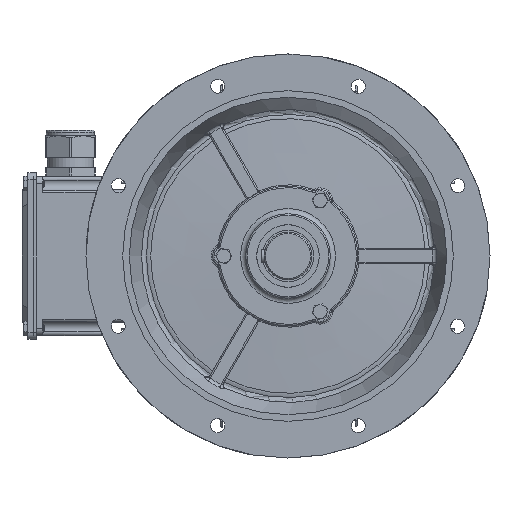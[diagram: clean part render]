
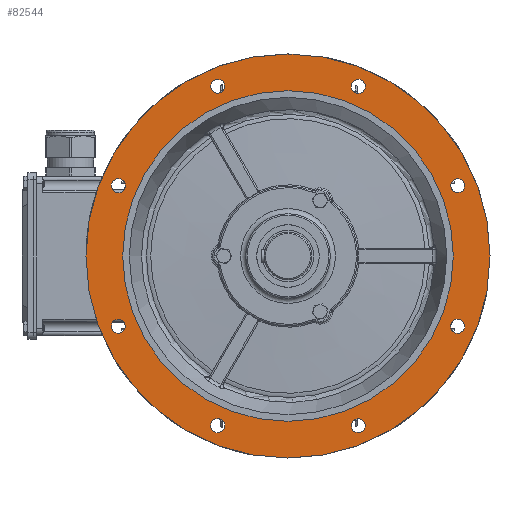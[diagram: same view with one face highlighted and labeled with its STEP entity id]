
A CAD part, left-side view. The second image highlights one B-rep face of the part: STEP entity #82544.
In plain terms, the highlighted planar face has unit normal (-1, 0, 0).
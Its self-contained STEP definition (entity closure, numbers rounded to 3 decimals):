
#82212=CARTESIAN_POINT('',(140.,88.953,-237.687));
#82213=VERTEX_POINT('',#82212);
#82214=CARTESIAN_POINT('',(140.,95.671,-230.97));
#82215=DIRECTION('',(1.0,0.0,0.0));
#82216=DIRECTION('',(0.0,0.707,0.707));
#82217=AXIS2_PLACEMENT_3D('',#82214,#82215,#82216);
#82218=CIRCLE('',#82217,9.5);
#82219=EDGE_CURVE('',#82213,#82213,#82218,.T.);
#82232=CARTESIAN_POINT('',(140.,-105.171,-230.97));
#82233=VERTEX_POINT('',#82232);
#82234=CARTESIAN_POINT('',(140.,-95.671,-230.97));
#82235=DIRECTION('',(1.0,0.0,0.0));
#82236=DIRECTION('',(0.0,1.0,0.0));
#82237=AXIS2_PLACEMENT_3D('',#82234,#82235,#82236);
#82238=CIRCLE('',#82237,9.5);
#82239=EDGE_CURVE('',#82233,#82233,#82238,.T.);
#82252=CARTESIAN_POINT('',(140.,-237.687,-88.953));
#82253=VERTEX_POINT('',#82252);
#82254=CARTESIAN_POINT('',(140.,-230.97,-95.671));
#82255=DIRECTION('',(1.0,0.0,0.0));
#82256=DIRECTION('',(0.0,0.707,-0.707));
#82257=AXIS2_PLACEMENT_3D('',#82254,#82255,#82256);
#82258=CIRCLE('',#82257,9.5);
#82259=EDGE_CURVE('',#82253,#82253,#82258,.T.);
#82272=CARTESIAN_POINT('',(140.,-230.97,105.171));
#82273=VERTEX_POINT('',#82272);
#82274=CARTESIAN_POINT('',(140.,-230.97,95.671));
#82275=DIRECTION('',(1.0,0.0,0.0));
#82276=DIRECTION('',(0.0,0.0,-1.0));
#82277=AXIS2_PLACEMENT_3D('',#82274,#82275,#82276);
#82278=CIRCLE('',#82277,9.5);
#82279=EDGE_CURVE('',#82273,#82273,#82278,.T.);
#82292=CARTESIAN_POINT('',(140.,-88.953,237.687));
#82293=VERTEX_POINT('',#82292);
#82294=CARTESIAN_POINT('',(140.,-95.671,230.97));
#82295=DIRECTION('',(1.0,0.0,0.0));
#82296=DIRECTION('',(0.0,-0.707,-0.707));
#82297=AXIS2_PLACEMENT_3D('',#82294,#82295,#82296);
#82298=CIRCLE('',#82297,9.5);
#82299=EDGE_CURVE('',#82293,#82293,#82298,.T.);
#82312=CARTESIAN_POINT('',(140.,105.171,230.97));
#82313=VERTEX_POINT('',#82312);
#82314=CARTESIAN_POINT('',(140.,95.671,230.97));
#82315=DIRECTION('',(1.0,0.0,0.0));
#82316=DIRECTION('',(0.0,-1.0,0.0));
#82317=AXIS2_PLACEMENT_3D('',#82314,#82315,#82316);
#82318=CIRCLE('',#82317,9.5);
#82319=EDGE_CURVE('',#82313,#82313,#82318,.T.);
#82332=CARTESIAN_POINT('',(140.,237.687,88.953));
#82333=VERTEX_POINT('',#82332);
#82334=CARTESIAN_POINT('',(140.,230.97,95.671));
#82335=DIRECTION('',(1.0,0.0,0.0));
#82336=DIRECTION('',(0.0,-0.707,0.707));
#82337=AXIS2_PLACEMENT_3D('',#82334,#82335,#82336);
#82338=CIRCLE('',#82337,9.5);
#82339=EDGE_CURVE('',#82333,#82333,#82338,.T.);
#82352=CARTESIAN_POINT('',(140.,230.97,-105.171));
#82353=VERTEX_POINT('',#82352);
#82354=CARTESIAN_POINT('',(140.,230.97,-95.671));
#82355=DIRECTION('',(1.0,0.0,0.0));
#82356=DIRECTION('',(0.0,0.0,1.0));
#82357=AXIS2_PLACEMENT_3D('',#82354,#82355,#82356);
#82358=CIRCLE('',#82357,9.5);
#82359=EDGE_CURVE('',#82353,#82353,#82358,.T.);
#82493=CARTESIAN_POINT('',(140.,245.5,0.0));
#82494=DIRECTION('',(-1.0,0.0,0.0));
#82495=DIRECTION('',(0.0,0.0,1.0));
#82496=AXIS2_PLACEMENT_3D('',#82493,#82494,#82495);
#82497=PLANE('',#82496);
#82498=CARTESIAN_POINT('',(140.,275.0,0.0));
#82499=VERTEX_POINT('',#82498);
#82500=CARTESIAN_POINT('',(140.,0.0,0.0));
#82501=DIRECTION('',(1.0,0.0,0.0));
#82502=DIRECTION('',(0.0,1.0,0.0));
#82503=AXIS2_PLACEMENT_3D('',#82500,#82501,#82502);
#82504=CIRCLE('',#82503,275.0);
#82505=EDGE_CURVE('',#82499,#82499,#82504,.T.);
#82506=ORIENTED_EDGE('',*,*,#82505,.F.);
#82507=EDGE_LOOP('',(#82506));
#82508=FACE_OUTER_BOUND('',#82507,.T.);
#82509=ORIENTED_EDGE('',*,*,#82219,.T.);
#82510=EDGE_LOOP('',(#82509));
#82511=FACE_BOUND('',#82510,.T.);
#82512=ORIENTED_EDGE('',*,*,#82239,.T.);
#82513=EDGE_LOOP('',(#82512));
#82514=FACE_BOUND('',#82513,.T.);
#82515=ORIENTED_EDGE('',*,*,#82259,.T.);
#82516=EDGE_LOOP('',(#82515));
#82517=FACE_BOUND('',#82516,.T.);
#82518=ORIENTED_EDGE('',*,*,#82279,.T.);
#82519=EDGE_LOOP('',(#82518));
#82520=FACE_BOUND('',#82519,.T.);
#82521=ORIENTED_EDGE('',*,*,#82299,.T.);
#82522=EDGE_LOOP('',(#82521));
#82523=FACE_BOUND('',#82522,.T.);
#82524=ORIENTED_EDGE('',*,*,#82319,.T.);
#82525=EDGE_LOOP('',(#82524));
#82526=FACE_BOUND('',#82525,.T.);
#82527=ORIENTED_EDGE('',*,*,#82339,.T.);
#82528=EDGE_LOOP('',(#82527));
#82529=FACE_BOUND('',#82528,.T.);
#82530=ORIENTED_EDGE('',*,*,#82359,.T.);
#82531=EDGE_LOOP('',(#82530));
#82532=FACE_BOUND('',#82531,.T.);
#82533=CARTESIAN_POINT('',(140.,225.0,0.0));
#82534=VERTEX_POINT('',#82533);
#82535=CARTESIAN_POINT('',(140.,0.0,0.0));
#82536=DIRECTION('',(1.0,0.0,0.0));
#82537=DIRECTION('',(0.0,1.0,0.0));
#82538=AXIS2_PLACEMENT_3D('',#82535,#82536,#82537);
#82539=CIRCLE('',#82538,225.0);
#82540=EDGE_CURVE('',#82534,#82534,#82539,.T.);
#82541=ORIENTED_EDGE('',*,*,#82540,.T.);
#82542=EDGE_LOOP('',(#82541));
#82543=FACE_BOUND('',#82542,.T.);
#82544=ADVANCED_FACE('',(#82508,#82511,#82514,#82517,#82520,#82523,#82526,#82529,#82532,#82543),#82497,.T.);
